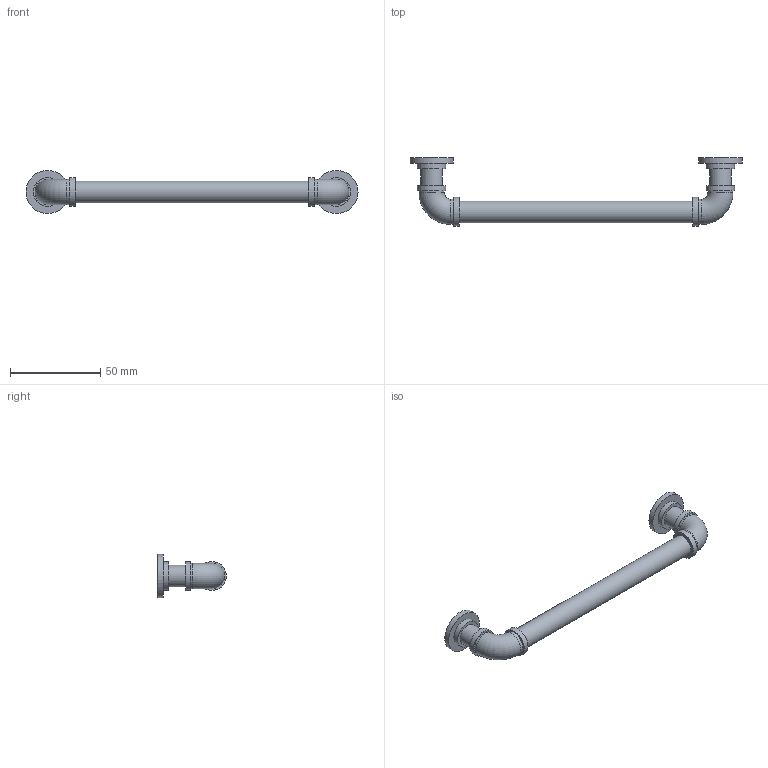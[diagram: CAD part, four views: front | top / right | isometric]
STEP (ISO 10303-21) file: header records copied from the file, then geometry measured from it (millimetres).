
FILE_DESCRIPTION( ( 'STEP AP214' ), '1' );
FILE_NAME( 'D:/Yug/2020/ProDecor_2020/QC/9266563.stp', '2020-06-01T11:59:27', ( '' ), ( '' ), ' ', 'PARTsolutions', ' ' );
FILE_SCHEMA( ( 'AUTOMOTIVE_DESIGN { 1 0 10303 214 1 1 1 1 }' ) );
Length unit declared in the file: millimetre
Products named in the file (1): _9266563
Bounding box: 184 x 38 x 24 mm (x, y, z)
Volume: 28850.3 mm3; surface area: 10911.4 mm2
Topology: 1 solids, 1 shells, 35 faces, 53 edges, 34 vertices
Faces by surface type: cylinder 17, plane 16, torus 2
Full cylindrical faces by diameter (mm): 3.25 x2, 12 x3, 14 x4, 15.8 x4, 16 x2, 24 x2
Entity records: 990 total; most frequent: DIRECTION 140, CARTESIAN_POINT 104, AXIS2_PLACEMENT_3D 70, EDGE_LOOP 68, ORIENTED_EDGE 68, FACE_OUTER_BOUND 54, STYLED_ITEM 35, PRESENTATION_STYLE_ASSIGNMENT 35
